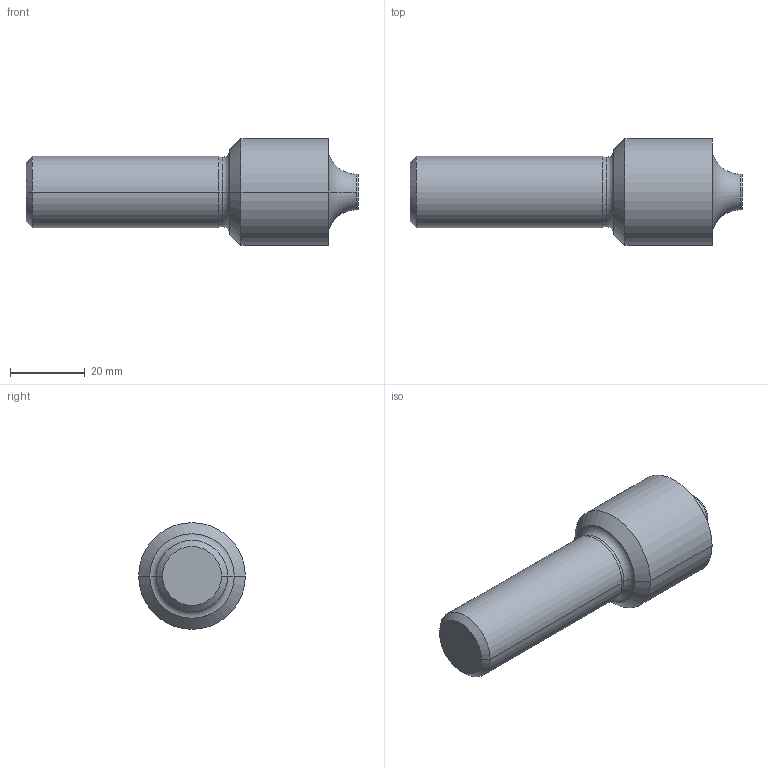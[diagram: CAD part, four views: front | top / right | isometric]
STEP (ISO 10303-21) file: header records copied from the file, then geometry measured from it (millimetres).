
FILE_DESCRIPTION (( 'STEP AP214' ), '1' );
FILE_NAME ('EQ237906.STEP', '2022-01-26T02:15:59', ( 'USER' ), ( '' ), 'SwSTEP 2.0', 'SolidWorks 2014', '' );
FILE_SCHEMA (( 'AUTOMOTIVE_DESIGN' ));
Length unit declared in the file: millimetre
Products named in the file (1): EQ237906
Bounding box: 88.9 x 28.57 x 28.57 mm (x, y, z)
Volume: 33041.9 mm3; surface area: 6835.4 mm2
Topology: 1 solids, 1 shells, 20 faces, 38 edges, 22 vertices
Faces by surface type: cylinder 8, cone 4, torus 4, plane 4
Entity records: 542 total; most frequent: DIRECTION 106, CARTESIAN_POINT 81, ORIENTED_EDGE 76, AXIS2_PLACEMENT_3D 47, EDGE_CURVE 38, CIRCLE 26, VERTEX_POINT 22, EDGE_LOOP 22
